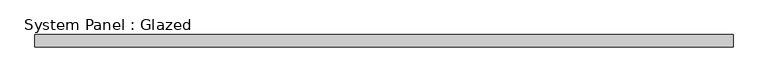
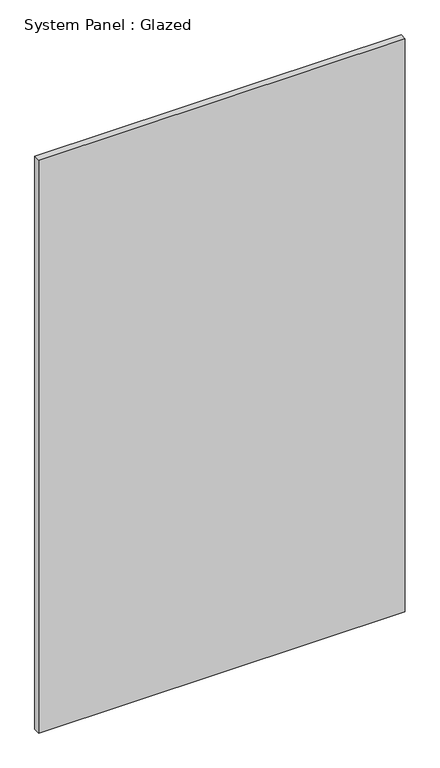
"""IFC4 building model written with IfcOpenShell, lengths in millimetres: plate geometry, System Panel : Glazed."""

import ifcopenshell
import ifcopenshell.guid

model = None  # the IFC model being written
_history = None  # IfcOwnerHistory: only IFC2X3 demands one
_inside = {}  # id of a spatial element -> (the spatial element, [elements in it])
_under = {}  # id of a project, library or spatial element -> (it, [spatial elements below it])
_declared = {}  # id of a project -> (the project, [libraries it declares])
_typed = {}  # id of a type object -> (the type object, [elements of that type])
_made_of = {}  # id of a material, layer set ... -> (it, [elements and type objects made of it])


def new_model(schema):
    """Start an empty IFC model of exactly this schema.

    Asked for "IFC4X3", IfcOpenShell would pick the latest addendum, in which some entities
    have other attributes; the version numbers below select the first issue.
    IFC2X3 requires an IfcOwnerHistory on every rooted entity: one is made here for all.
    """
    global model, _history
    if schema == "IFC4X3":
        model = ifcopenshell.file(schema_version=(4, 3, 0, 0))
    else:
        model = ifcopenshell.file(schema=schema)
    _inside.clear()
    _under.clear()
    _declared.clear()
    _typed.clear()
    _made_of.clear()
    _history = None
    if model.schema == "IFC2X3":
        org = make("IfcOrganization", Name="unknown")
        user = make(
            "IfcPersonAndOrganization",
            ThePerson=make("IfcPerson", FamilyName="unknown"),
            TheOrganization=org,
        )
        app = make(
            "IfcApplication",
            ApplicationDeveloper=org,
            Version="unknown",
            ApplicationFullName="unknown",
            ApplicationIdentifier="unknown",
        )
        _history = make(
            "IfcOwnerHistory",
            OwningUser=user,
            OwningApplication=app,
            ChangeAction="ADDED",
            CreationDate=0,
        )
    return model


def make(cls, **values):
    """One entity of the class cls with the attributes given. An attribute that is None is left unset."""
    return model.create_entity(
        cls, **{name: value for name, value in values.items() if value is not None}
    )


def rooted(cls, **values):
    """An entity with a GlobalId (a new one), such as an element, a storey or a relation."""
    return make(cls, GlobalId=ifcopenshell.guid.new(), OwnerHistory=_history, **values)


def si_unit(unit_type, name, prefix=None):
    """IfcSIUnit, for example si_unit("LENGTHUNIT", "METRE", prefix="MILLI")."""
    return make("IfcSIUnit", UnitType=unit_type, Prefix=prefix, Name=name)


def assignment(units):
    """IfcUnitAssignment: the units of a project."""
    return None if units is None else make("IfcUnitAssignment", Units=units)


def point(xyz):
    """IfcCartesianPoint."""
    return None if xyz is None else make("IfcCartesianPoint", Coordinates=xyz)


def direction(xyz):
    """IfcDirection."""
    return None if xyz is None else make("IfcDirection", DirectionRatios=xyz)


def frame(location, z_axis=None, x_axis=None):
    """IfcAxis2Placement3D, a coordinate frame: its origin and axes. An axis left out is left unset."""
    return make(
        "IfcAxis2Placement3D",
        Location=point(location),
        Axis=direction(z_axis),
        RefDirection=direction(x_axis),
    )


def origin():
    """The frame at (0, 0, 0) with its axes left unset."""
    return frame((0.0, 0.0, 0.0))


def origin_with_axes():
    """The frame at (0, 0, 0) with the z axis (0, 0, 1) and the x axis (1, 0, 0) written out."""
    return frame((0.0, 0.0, 0.0), z_axis=(0.0, 0.0, 1.0), x_axis=(1.0, 0.0, 0.0))


def place(relative_to, where):
    """IfcLocalPlacement: puts the frame where relative to a parent placement (None: the world)."""
    return make(
        "IfcLocalPlacement", PlacementRelTo=relative_to, RelativePlacement=where
    )


def context(
    kind, dimensions, precision=None, world=None, true_north=None, identifier=None
):
    """IfcGeometricRepresentationContext, for example the 3D "Model" context."""
    return make(
        "IfcGeometricRepresentationContext",
        ContextIdentifier=identifier,
        ContextType=kind,
        CoordinateSpaceDimension=dimensions,
        Precision=precision,
        WorldCoordinateSystem=world,
        TrueNorth=true_north,
    )


def project(units=None, contexts=None):
    """IfcProject with its units and contexts."""
    return rooted(
        "IfcProject",
        Name="project",
        RepresentationContexts=contexts,
        UnitsInContext=assignment(units),
    )


def spatial(cls, under=None, at=None, **own):
    """A site, building, storey or space (cls), placed at a placement, below another one or the project."""
    s = rooted(cls, ObjectPlacement=at, **own)
    if under is not None:
        _under.setdefault(under.id(), (under, []))[1].append(s)
    return s


def polyline(points):
    """IfcPolyline through the points."""
    return make("IfcPolyline", Points=[point(p) for p in points])


def outline(outer, holes=None, kind="AREA"):
    """IfcArbitraryClosedProfileDef: a profile drawn as a closed curve; with holes, ...WithVoids."""
    if holes is None:
        return make("IfcArbitraryClosedProfileDef", ProfileType=kind, OuterCurve=outer)
    return make(
        "IfcArbitraryProfileDefWithVoids",
        ProfileType=kind,
        OuterCurve=outer,
        InnerCurves=holes,
    )


def extrude(swept, where, along, depth):
    """IfcExtrudedAreaSolid: the profile swept, set in the frame where, extruded along a direction by depth."""
    return make(
        "IfcExtrudedAreaSolid",
        SweptArea=swept,
        Position=where,
        ExtrudedDirection=direction(along),
        Depth=depth,
    )


def shape(context_of_items, identifier, shape_type, items):
    """IfcShapeRepresentation: the items that make up one representation, for example the "Body"."""
    return make(
        "IfcShapeRepresentation",
        ContextOfItems=context_of_items,
        RepresentationIdentifier=identifier,
        RepresentationType=shape_type,
        Items=items,
    )


def source(mapping_origin, context_of_items, identifier, shape_type, items):
    """IfcRepresentationMap: a shape defined once, which mapped items show again and again."""
    return make(
        "IfcRepresentationMap",
        MappingOrigin=mapping_origin,
        MappedRepresentation=shape(context_of_items, identifier, shape_type, items),
    )


def transform(
    local_origin,
    x_axis=None,
    y_axis=None,
    z_axis=None,
    scale=None,
    scale2=None,
    scale3=None,
    uniform=True,
):
    """IfcCartesianTransformationOperator3D, or its non-uniform kind. x_axis, y_axis, z_axis: its Axis1, 2, 3."""
    if uniform:
        return make(
            "IfcCartesianTransformationOperator3D",
            Axis1=direction(x_axis),
            Axis2=direction(y_axis),
            LocalOrigin=point(local_origin),
            Scale=scale,
            Axis3=direction(z_axis),
        )
    return make(
        "IfcCartesianTransformationOperator3DnonUniform",
        Axis1=direction(x_axis),
        Axis2=direction(y_axis),
        LocalOrigin=point(local_origin),
        Scale=scale,
        Axis3=direction(z_axis),
        Scale2=scale2,
        Scale3=scale3,
    )


def mapped(mapping_source, mapping_target):
    """IfcMappedItem: shows the shape of a source again, moved by a transform."""
    return make(
        "IfcMappedItem", MappingSource=mapping_source, MappingTarget=mapping_target
    )


def made_of(thing, what):
    """Note that an element or type object is made of a material, layer set ...; save() writes the relation."""
    if what is not None:
        _made_of.setdefault(what.id(), (what, []))[1].append(thing)
    return thing


def element(
    cls,
    number,
    at=None,
    inside=None,
    cuts=None,
    type_object=None,
    material=None,
    context=None,
    identifier="Body",
    shape_type=None,
    held_by="IfcProductDefinitionShape",
    body=None,
    shapes=None,
    **own,
):
    """One element of the class cls, such as IfcWall. Its Tag is "e" and its number.

    at: its placement. inside: the storey or other place that contains it. cuts: it is an
    opening in that element (IfcRelVoidsElement). A single representation is given by context,
    identifier, shape_type and body (its items); several are given by shapes. held_by: the class
    of the entity that holds the representations. save() writes the other relations.
    """
    e = rooted(cls, Tag="e%d" % number, ObjectPlacement=at, **own)
    if body is not None:
        shapes = [shape(context, identifier, shape_type, body)]
    if shapes is not None:
        e.Representation = make(held_by, Representations=shapes)
    if inside is not None:
        _inside.setdefault(inside.id(), (inside, []))[1].append(e)
    if cuts is not None:
        rooted(
            "IfcRelVoidsElement", RelatingBuildingElement=cuts, RelatedOpeningElement=e
        )
    if type_object is not None:
        _typed.setdefault(type_object.id(), (type_object, []))[1].append(e)
    return made_of(e, material)


def aggregate(whole, parts):
    """IfcRelAggregates: a whole, such as a stair, and the parts it consists of."""
    return rooted("IfcRelAggregates", RelatingObject=whole, RelatedObjects=parts)


def save(model, path):
    """Write the relations noted so far, then the file.

    IfcRelAggregates (storeys below a building ...), IfcRelContainedInSpatialStructure (elements
    in a storey), IfcRelDefinesByType, IfcRelAssociatesMaterial and IfcRelDeclares: one each for
    every whole, place, type object, material and project.
    """
    for whole, parts in _under.values():
        aggregate(whole, parts)
    for where, things in _inside.values():
        rooted(
            "IfcRelContainedInSpatialStructure",
            RelatedElements=things,
            RelatingStructure=where,
        )
    for kind, things in _typed.values():
        rooted("IfcRelDefinesByType", RelatedObjects=things, RelatingType=kind)
    for what, things in _made_of.values():
        rooted("IfcRelAssociatesMaterial", RelatedObjects=things, RelatingMaterial=what)
    for by, libraries in _declared.values():
        rooted("IfcRelDeclares", RelatingContext=by, RelatedDefinitions=libraries)
    model.write(path)


def system_panel_glazed_206f5d08(model_context):
    return source(origin(), model_context, "Body", "SweptSolid", [
        extrude(outline(polyline([(703.9062501, 24.5), (-703.9062501, 24.5), (-703.9062501, 49.5), (703.9062501, 49.5), (703.9062501, 24.5)])), origin_with_axes(), (0.0, 0.0, 1.0), 2325.0),
    ])


if __name__ == "__main__":
    model = new_model("IFC4")
    model_context = context("Model", 3, world=origin())
    ifc_project = project(units=[si_unit("LENGTHUNIT", "METRE", prefix="MILLI")], contexts=[model_context])
    site = spatial("IfcSite", under=ifc_project)
    building = spatial("IfcBuilding", under=site)
    placement = place(None, origin())
    system_panel_glazed_shape = system_panel_glazed_206f5d08(model_context)
    element("IfcPlate", 1, ObjectType="System Panel : Glazed", at=placement, inside=building, context=model_context, shape_type="MappedRepresentation", body=[
        mapped(system_panel_glazed_shape, transform((0.0, 0.0, 0.0), x_axis=(1.0, 0.0, 0.0), y_axis=(0.0, 1.0, 0.0), z_axis=(0.0, 0.0, 1.0))),
    ])
    save(model, "model.ifc")
